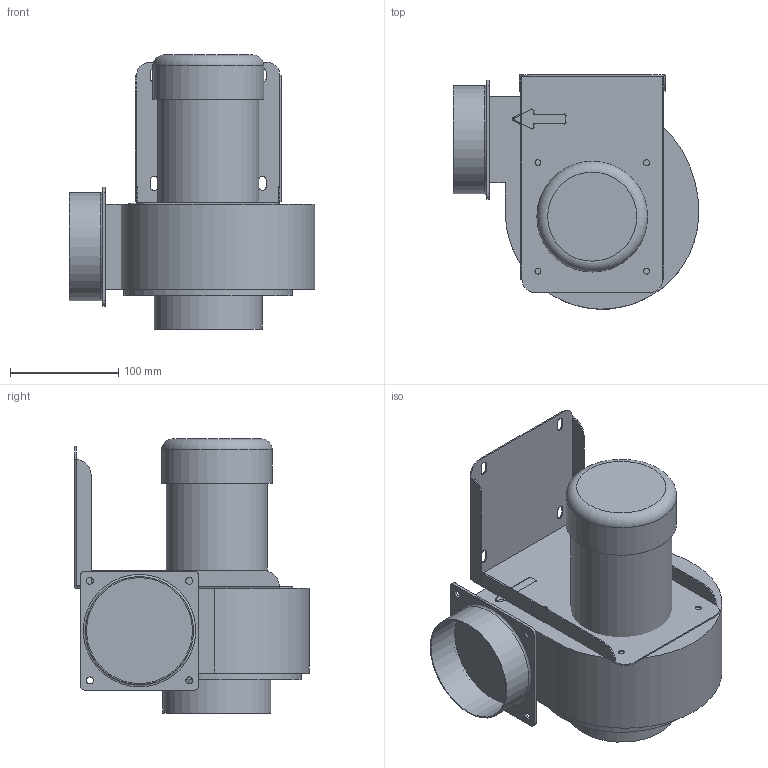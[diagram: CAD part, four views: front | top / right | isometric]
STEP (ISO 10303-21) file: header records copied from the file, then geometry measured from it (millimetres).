
FILE_DESCRIPTION(/* description */ ('Unknown'),/* implementation_level */ '2;1');
FILE_NAME(/* name */ 'CY120A2PQ-EG 下平吹 型錄',/* time_stamp */ '2026-03-10T16:55:55+08:00',/* author */ ('Unknown'),/* organization */ ('Unknown'),/* preprocessor_version */ 'ST-DEVELOPER v20',/* originating_system */ 'Solid Edge',/* authorisation */ 'Unknown');
FILE_SCHEMA (('AUTOMOTIVE_DESIGN {1 0 10303 214 3 1 1}'));
Length unit declared in the file: millimetre
Products named in the file (3): CY120A2PQ-EG ､U･ｭｧj 聖 蝙矩隙; CY120A2P1-7-EG; CY120-07
Assembly tree (2 placements, depth 2):
  CY120A2PQ-EG ､U･ｭｧj 聖 蝙矩隙
    CY120A2P1-7-EG
    CY120-07
Bounding box: 226.99 x 216.47 x 253.5 mm (x, y, z)
Volume: 3551499.8 mm3; surface area: 320904.4 mm2
Topology: 2 solids, 2 shells, 161 faces, 415 edges, 270 vertices
Faces by surface type: cylinder 75, plane 72, torus 13, bspline 1
Full cylindrical faces by diameter (mm): 5.5 x8, 6.5 x4, 20 x1, 93.6 x1, 97.5 x1, 98 x1, 100 x2, 102.4 x1, 152 x1, 154 x1, 156 x1
Entity records: 4967 total; most frequent: CARTESIAN_POINT 883, DIRECTION 876, ORIENTED_EDGE 766, EDGE_CURVE 383, AXIS2_PLACEMENT_3D 332, VERTEX_POINT 263, EDGE_LOOP 236, FACE_BOUND 236
